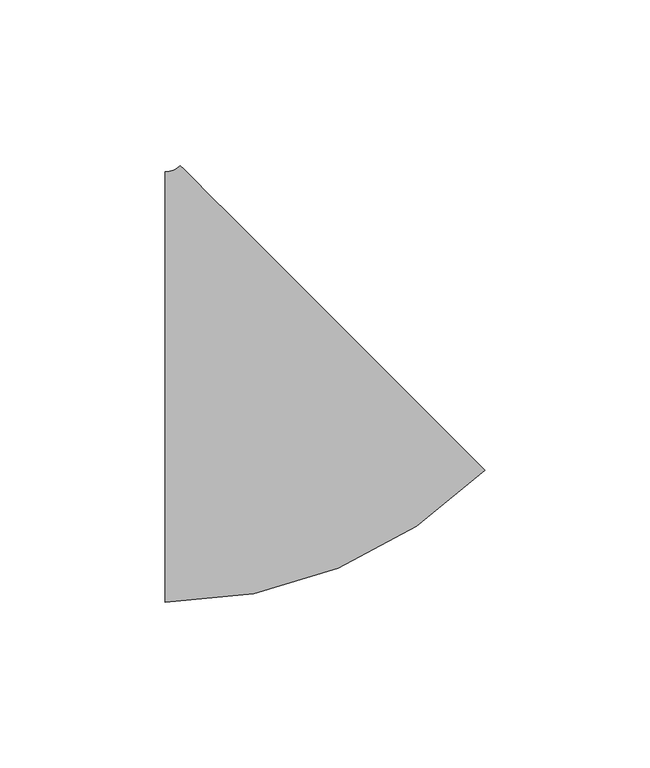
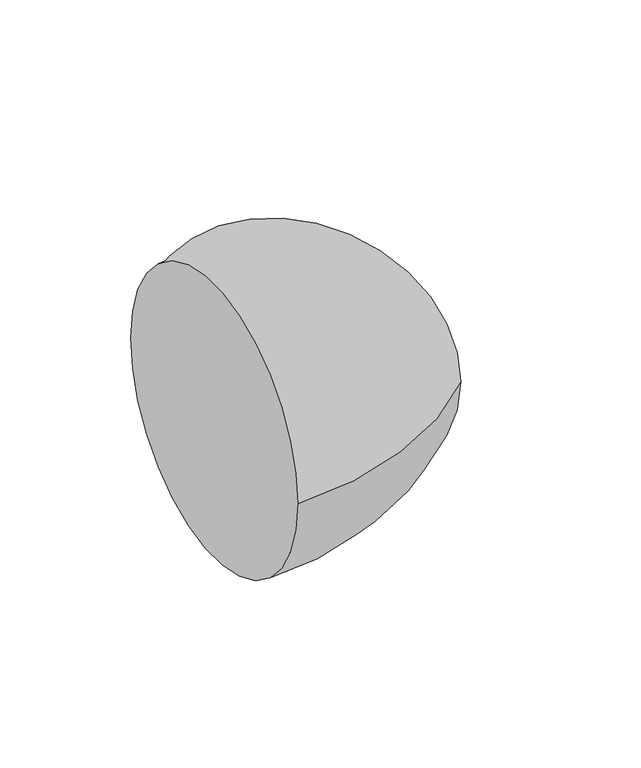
"""IFC4 building model written with IfcOpenShell, lengths in millimetres: pipe fitting geometry, M_Codo - Genérico : Estándar."""

from ifc_helpers import new_model, si_unit, point, frame, origin, place, context, project, spatial, circle_curve, ellipse_curve, trimmed, source, transform, mapped, element, save
from ifc_brep_helpers import plane_surface, revolved_surface, advanced_brep


def pipe_fitting_37d2b20f(model_context):
    return source(origin(), model_context, "Body", "AdvancedBrep", [
        advanced_brep(
        [(-29.5960641, -65.0875, 0.0), (-29.5960641, 65.0875, 0.0), (66.9547975, -25.0871432, 0.0), (-25.1053263, 66.9479817, 0.0)],
        [
            (0, 1, circle_curve(frame((-29.5960641, 0.0, 0.0), z_axis=(-1.0, 0.0, 0.0), x_axis=(0.0, 1.0, 0.0)), 65.0875)),
            (1, 0, circle_curve(frame((-29.5960641, 0.0, 0.0), z_axis=(-1.0, 0.0, 0.0), x_axis=(0.0, 1.0, 0.0)), 65.0875)),
            (2, 3, circle_curve(frame((20.9247356, 20.9304193, 0.0), z_axis=(0.7070107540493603, 0.7072027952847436, 0.0), x_axis=(-0.7072027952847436, 0.7070107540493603, 0.0)), 65.0875)),
            (3, 2, circle_curve(frame((20.9247356, 20.9304193, 0.0), z_axis=(0.7070107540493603, 0.7072027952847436, 0.0), x_axis=(-0.7072027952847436, 0.7070107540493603, 0.0)), 65.0875)),
            (3, 1, circle_curve(frame((-29.5960641, 71.4375, 0.0), z_axis=(0.0, 0.0, -1.0), x_axis=(0.0, -1.0, 0.0)), 6.35)),
            (0, 2, circle_curve(frame((-29.5960641, 71.4375, 0.0), z_axis=(0.0, 0.0, 1.0), x_axis=(0.0, -1.0, 0.0)), 136.525)),
        ],
        [
            plane_surface(frame((-29.5960641, 0.0, 0.0), z_axis=(-1.0, 0.0, 0.0), x_axis=(0.0, 0.0, 1.0))),
            plane_surface(frame((20.9247356, 20.9304193, 0.0), z_axis=(0.7070107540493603, 0.7072027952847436, 0.0), x_axis=(0.0, 0.0, 1.0))),
            revolved_surface(trimmed(ellipse_curve(frame((-29.5960641, 0.0, 0.0), z_axis=(-1.0, 0.0, 0.0), x_axis=(0.0, 1.0, 0.0)), 65.0875, 65.0875), [point((-29.5960641, -65.0875, 0.0))], [point((-29.5960641, 65.0875, 0.0))], True, "CARTESIAN"), (-29.5960641, 71.4375, 0.0), (0.0, 0.0, 1.0)),
            revolved_surface(trimmed(ellipse_curve(frame((-29.5960641, 0.0, 0.0), z_axis=(-1.0, 0.0, 0.0), x_axis=(0.0, 1.0, 0.0)), 65.0875, 65.0875), [point((-29.5960641, 65.0875, 0.0))], [point((-29.5960641, -65.0875, 0.0))], True, "CARTESIAN"), (-29.5960641, 71.4375, 0.0), (0.0, 0.0, 1.0)),
        ],
        [
            (0, [[1, 2]]),
            (1, [[3, 4]]),
            (2, [[5, -1, 6, -4]]),
            (3, [[-6, -2, -5, -3]]),
        ],
    ),
    ])


if __name__ == "__main__":
    model = new_model("IFC4")
    model_context = context("Model", 3, world=origin())
    ifc_project = project(units=[si_unit("LENGTHUNIT", "METRE", prefix="MILLI")], contexts=[model_context])
    site = spatial("IfcSite", under=ifc_project)
    building = spatial("IfcBuilding", under=site)
    placement = place(None, origin())
    pipe_fitting_shape = pipe_fitting_37d2b20f(model_context)
    element("IfcPipeFitting", 1, ObjectType="M_Codo - Genérico : Estándar", at=placement, inside=building, context=model_context, shape_type="MappedRepresentation", body=[
        mapped(pipe_fitting_shape, transform((0.0, 0.0, 0.0), x_axis=(1.0, 0.0, 0.0), y_axis=(0.0, 1.0, 0.0), z_axis=(0.0, 0.0, 1.0))),
    ])
    save(model, "model.ifc")
